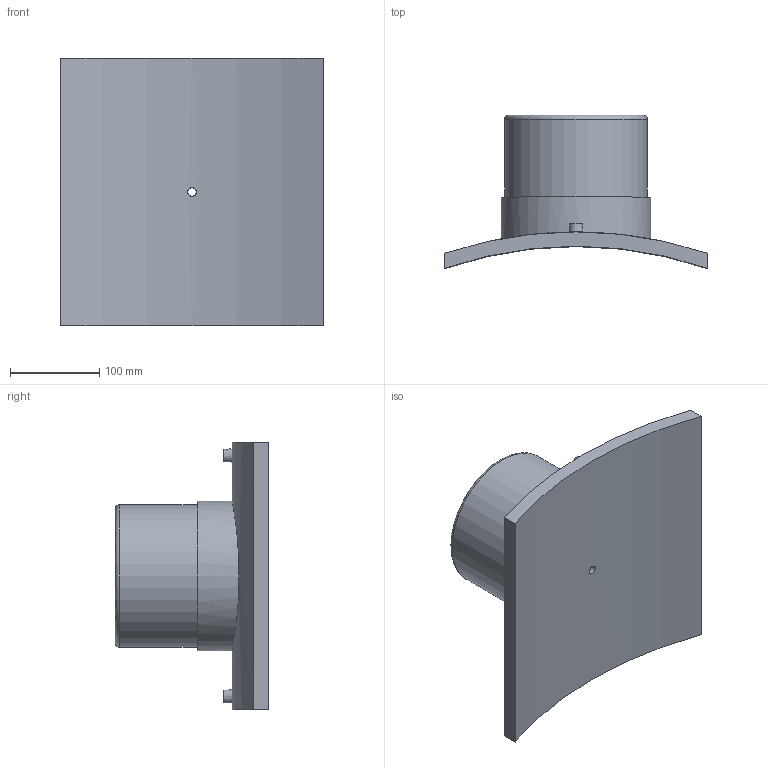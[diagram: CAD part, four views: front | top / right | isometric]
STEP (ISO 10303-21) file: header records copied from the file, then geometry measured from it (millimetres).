
FILE_DESCRIPTION(/* description */ ('PLASSON BRANCH SADDLE 900x160'),/* implementation_level */ '2;1');
FILE_NAME(/* name */ 'C:\Dropbox\99-16-3568-Processing\ElectroFusion Fittings\495803\495803900160T.ipt.stp',/* time_stamp */ '2021-02-25T09:46:00+02:00',/* author */ ('KIM'),/* organization */ (''),/* preprocessor_version */ 'ST-DEVELOPER v17.2',/* originating_system */ 'Autodesk Inventor 2019',/* authorisation */ '');
FILE_SCHEMA (('AUTOMOTIVE_DESIGN { 1 0 10303 214 3 1 1 }'));
Length unit declared in the file: millimetre
Products named in the file (1): 495803900160T
Bounding box: 295 x 171.86 x 300 mm (x, y, z)
Volume: 2503608.6 mm3; surface area: 328157.2 mm2
Topology: 1 solids, 1 shells, 29 faces, 60 edges, 43 vertices
Faces by surface type: plane 13, cylinder 12, torus 2, cone 2
Full cylindrical faces by diameter (mm): 4 x2, 9.6 x1, 10 x2, 16 x1, 128 x1, 160 x1, 168 x1
Entity records: 1086 total; most frequent: CARTESIAN_POINT 400, DIRECTION 139, ORIENTED_EDGE 120, EDGE_CURVE 60, AXIS2_PLACEMENT_3D 60, VERTEX_POINT 43, EDGE_LOOP 41, CIRCLE 30
